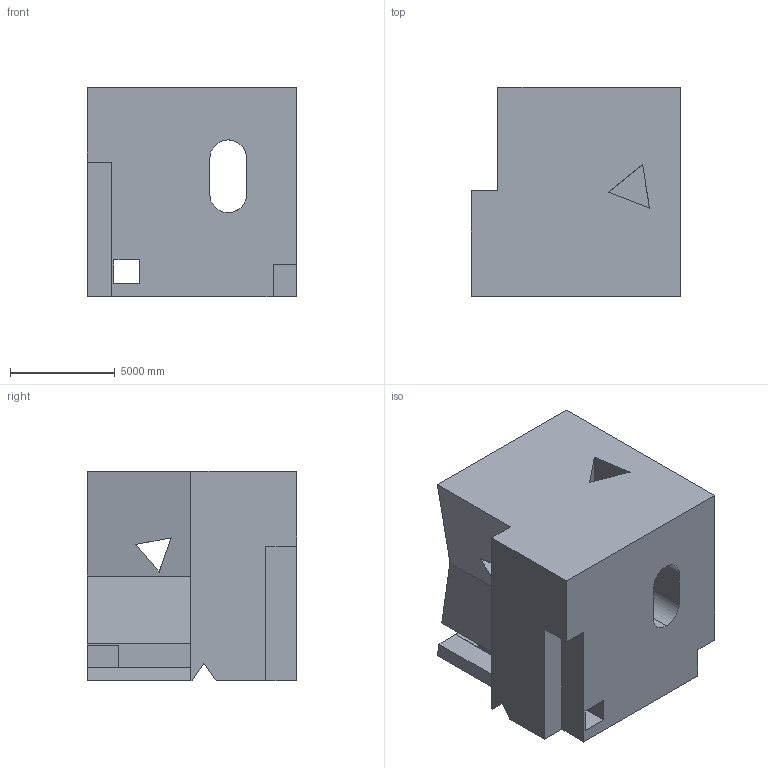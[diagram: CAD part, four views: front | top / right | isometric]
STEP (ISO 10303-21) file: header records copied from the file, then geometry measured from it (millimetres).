
FILE_DESCRIPTION (( 'STEP AP203' ), '1' );
FILE_NAME ('825.STEP', '2022-07-29T13:29:53', ( 'user' ), ( '' ), 'SwSTEP 2.0', 'SolidWorks 2021', '' );
FILE_SCHEMA (( 'CONFIG_CONTROL_DESIGN' ));
Length unit declared in the file: centimetre
Products named in the file (1): 825
Bounding box: 10000 x 10000 x 10000 mm (x, y, z)
Volume: 793212629975.5 mm3; surface area: 782943198.6 mm2
Topology: 1 solids, 1 shells, 45 faces, 153 edges, 102 vertices
Faces by surface type: plane 41, cylinder 4
Entity records: 1738 total; most frequent: CARTESIAN_POINT 331, ORIENTED_EDGE 306, DIRECTION 241, EDGE_CURVE 153, VECTOR 137, LINE 137, VERTEX_POINT 102, AXIS2_PLACEMENT_3D 52
